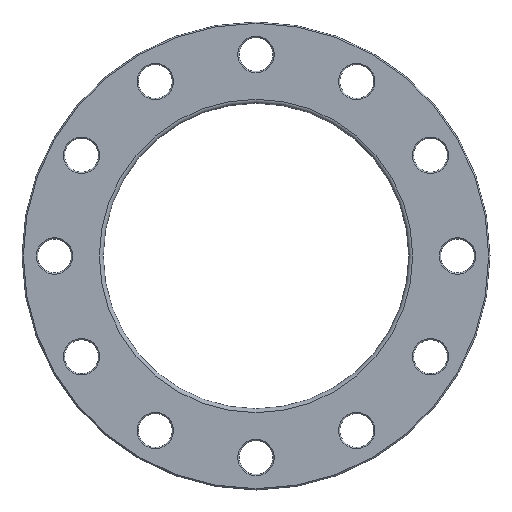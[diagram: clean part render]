
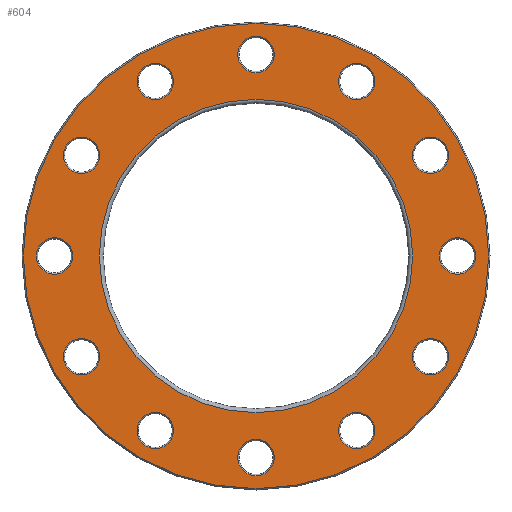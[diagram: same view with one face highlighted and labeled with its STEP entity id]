
A CAD part, front view. The second image highlights one B-rep face of the part: STEP entity #604.
In plain terms, the highlighted planar face has unit normal (0, -1, 0).
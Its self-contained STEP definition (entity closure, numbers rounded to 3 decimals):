
#23=PLANE('',#712);
#134=ORIENTED_EDGE('',*,*,#213,.T.);
#135=ORIENTED_EDGE('',*,*,#214,.T.);
#136=ORIENTED_EDGE('',*,*,#164,.T.);
#137=ORIENTED_EDGE('',*,*,#168,.T.);
#138=ORIENTED_EDGE('',*,*,#172,.T.);
#139=ORIENTED_EDGE('',*,*,#176,.T.);
#140=ORIENTED_EDGE('',*,*,#180,.T.);
#141=ORIENTED_EDGE('',*,*,#184,.T.);
#142=ORIENTED_EDGE('',*,*,#188,.T.);
#143=ORIENTED_EDGE('',*,*,#192,.T.);
#144=ORIENTED_EDGE('',*,*,#196,.T.);
#145=ORIENTED_EDGE('',*,*,#200,.T.);
#146=ORIENTED_EDGE('',*,*,#204,.T.);
#147=ORIENTED_EDGE('',*,*,#215,.T.);
#164=EDGE_CURVE('',#220,#220,#276,.T.);
#168=EDGE_CURVE('',#224,#224,#280,.T.);
#172=EDGE_CURVE('',#228,#228,#284,.T.);
#176=EDGE_CURVE('',#232,#232,#288,.T.);
#180=EDGE_CURVE('',#236,#236,#292,.T.);
#184=EDGE_CURVE('',#240,#240,#296,.T.);
#188=EDGE_CURVE('',#244,#244,#300,.T.);
#192=EDGE_CURVE('',#248,#248,#304,.T.);
#196=EDGE_CURVE('',#252,#252,#308,.T.);
#200=EDGE_CURVE('',#256,#256,#312,.T.);
#204=EDGE_CURVE('',#260,#260,#316,.T.);
#213=EDGE_CURVE('',#269,#269,#325,.F.);
#214=EDGE_CURVE('',#270,#270,#326,.T.);
#215=EDGE_CURVE('',#271,#271,#327,.T.);
#220=VERTEX_POINT('',#935);
#224=VERTEX_POINT('',#946);
#228=VERTEX_POINT('',#957);
#232=VERTEX_POINT('',#968);
#236=VERTEX_POINT('',#979);
#240=VERTEX_POINT('',#990);
#244=VERTEX_POINT('',#1001);
#248=VERTEX_POINT('',#1012);
#252=VERTEX_POINT('',#1023);
#256=VERTEX_POINT('',#1034);
#260=VERTEX_POINT('',#1045);
#269=VERTEX_POINT('',#1068);
#270=VERTEX_POINT('',#1070);
#271=VERTEX_POINT('',#1072);
#276=CIRCLE('',#629,14.);
#280=CIRCLE('',#636,14.);
#284=CIRCLE('',#643,14.);
#288=CIRCLE('',#650,14.);
#292=CIRCLE('',#657,14.);
#296=CIRCLE('',#664,14.);
#300=CIRCLE('',#671,14.);
#304=CIRCLE('',#678,14.);
#308=CIRCLE('',#685,14.);
#312=CIRCLE('',#692,14.);
#316=CIRCLE('',#699,14.);
#325=CIRCLE('',#713,179.);
#326=CIRCLE('',#714,120.5);
#327=CIRCLE('',#715,14.);
#414=EDGE_LOOP('',(#134));
#415=EDGE_LOOP('',(#135));
#416=EDGE_LOOP('',(#136));
#417=EDGE_LOOP('',(#137));
#418=EDGE_LOOP('',(#138));
#419=EDGE_LOOP('',(#139));
#420=EDGE_LOOP('',(#140));
#421=EDGE_LOOP('',(#141));
#422=EDGE_LOOP('',(#142));
#423=EDGE_LOOP('',(#143));
#424=EDGE_LOOP('',(#144));
#425=EDGE_LOOP('',(#145));
#426=EDGE_LOOP('',(#146));
#427=EDGE_LOOP('',(#147));
#526=FACE_BOUND('',#414,.T.);
#527=FACE_BOUND('',#415,.T.);
#528=FACE_BOUND('',#416,.T.);
#529=FACE_BOUND('',#417,.T.);
#530=FACE_BOUND('',#418,.T.);
#531=FACE_BOUND('',#419,.T.);
#532=FACE_BOUND('',#420,.T.);
#533=FACE_BOUND('',#421,.T.);
#534=FACE_BOUND('',#422,.T.);
#535=FACE_BOUND('',#423,.T.);
#536=FACE_BOUND('',#424,.T.);
#537=FACE_BOUND('',#425,.T.);
#538=FACE_BOUND('',#426,.T.);
#539=FACE_BOUND('',#427,.T.);
#604=ADVANCED_FACE('',(#526,#527,#528,#529,#530,#531,#532,#533,#534,#535,
#536,#537,#538,#539),#23,.F.);
#629=AXIS2_PLACEMENT_3D('',#934,#735,#736);
#636=AXIS2_PLACEMENT_3D('',#945,#749,#750);
#643=AXIS2_PLACEMENT_3D('',#956,#763,#764);
#650=AXIS2_PLACEMENT_3D('',#967,#777,#778);
#657=AXIS2_PLACEMENT_3D('',#978,#791,#792);
#664=AXIS2_PLACEMENT_3D('',#989,#805,#806);
#671=AXIS2_PLACEMENT_3D('',#1000,#819,#820);
#678=AXIS2_PLACEMENT_3D('',#1011,#833,#834);
#685=AXIS2_PLACEMENT_3D('',#1022,#847,#848);
#692=AXIS2_PLACEMENT_3D('',#1033,#861,#862);
#699=AXIS2_PLACEMENT_3D('',#1044,#875,#876);
#712=AXIS2_PLACEMENT_3D('',#1066,#901,#902);
#713=AXIS2_PLACEMENT_3D('',#1067,#903,#904);
#714=AXIS2_PLACEMENT_3D('',#1069,#905,#906);
#715=AXIS2_PLACEMENT_3D('',#1071,#907,#908);
#735=DIRECTION('',(0.,1.,0.));
#736=DIRECTION('',(0.866,0.,0.5));
#749=DIRECTION('',(0.,1.,0.));
#750=DIRECTION('',(0.5,0.,0.866));
#763=DIRECTION('',(0.,1.,0.));
#764=DIRECTION('',(0.,0.,1.));
#777=DIRECTION('',(0.,1.,0.));
#778=DIRECTION('',(-0.5,0.,0.866));
#791=DIRECTION('',(0.,1.,0.));
#792=DIRECTION('',(-0.866,0.,0.5));
#805=DIRECTION('',(0.,1.,0.));
#806=DIRECTION('',(-1.,0.,0.));
#819=DIRECTION('',(0.,1.,0.));
#820=DIRECTION('',(-0.866,0.,-0.5));
#833=DIRECTION('',(0.,1.,0.));
#834=DIRECTION('',(-0.5,0.,-0.866));
#847=DIRECTION('',(0.,1.,0.));
#848=DIRECTION('',(0.,0.,-1.));
#861=DIRECTION('',(0.,1.,0.));
#862=DIRECTION('',(0.5,0.,-0.866));
#875=DIRECTION('',(0.,1.,0.));
#876=DIRECTION('',(0.866,0.,-0.5));
#901=DIRECTION('',(0.,1.,0.));
#902=DIRECTION('',(0.,0.,1.));
#903=DIRECTION('',(0.,1.,0.));
#904=DIRECTION('',(0.,0.,1.));
#905=DIRECTION('',(0.,1.,0.));
#906=DIRECTION('',(0.,0.,1.));
#907=DIRECTION('',(0.,1.,0.));
#908=DIRECTION('',(1.,0.,0.));
#934=CARTESIAN_POINT('',(-77.5,0.,134.234));
#935=CARTESIAN_POINT('',(-65.376,0.,141.234));
#945=CARTESIAN_POINT('',(-134.234,0.,77.5));
#946=CARTESIAN_POINT('',(-127.234,0.,89.624));
#956=CARTESIAN_POINT('',(-155.,0.,0.));
#957=CARTESIAN_POINT('',(-155.,0.,14.));
#967=CARTESIAN_POINT('',(-134.234,0.,-77.5));
#968=CARTESIAN_POINT('',(-141.234,0.,-65.376));
#978=CARTESIAN_POINT('',(-77.5,0.,-134.234));
#979=CARTESIAN_POINT('',(-89.624,0.,-127.234));
#989=CARTESIAN_POINT('',(0.,0.,-155.));
#990=CARTESIAN_POINT('',(-14.,0.,-155.));
#1000=CARTESIAN_POINT('',(77.5,0.,-134.234));
#1001=CARTESIAN_POINT('',(65.376,0.,-141.234));
#1011=CARTESIAN_POINT('',(134.234,0.,-77.5));
#1012=CARTESIAN_POINT('',(127.234,0.,-89.624));
#1022=CARTESIAN_POINT('',(155.,0.,0.));
#1023=CARTESIAN_POINT('',(155.,0.,-14.));
#1033=CARTESIAN_POINT('',(134.234,0.,77.5));
#1034=CARTESIAN_POINT('',(141.234,0.,65.376));
#1044=CARTESIAN_POINT('',(77.5,0.,134.234));
#1045=CARTESIAN_POINT('',(89.624,0.,127.234));
#1066=CARTESIAN_POINT('',(0.,0.,0.));
#1067=CARTESIAN_POINT('',(0.,0.,0.));
#1068=CARTESIAN_POINT('',(0.,0.,179.));
#1069=CARTESIAN_POINT('',(0.,0.,0.));
#1070=CARTESIAN_POINT('',(0.,0.,120.5));
#1071=CARTESIAN_POINT('',(0.,0.,155.));
#1072=CARTESIAN_POINT('',(14.,0.,155.));
